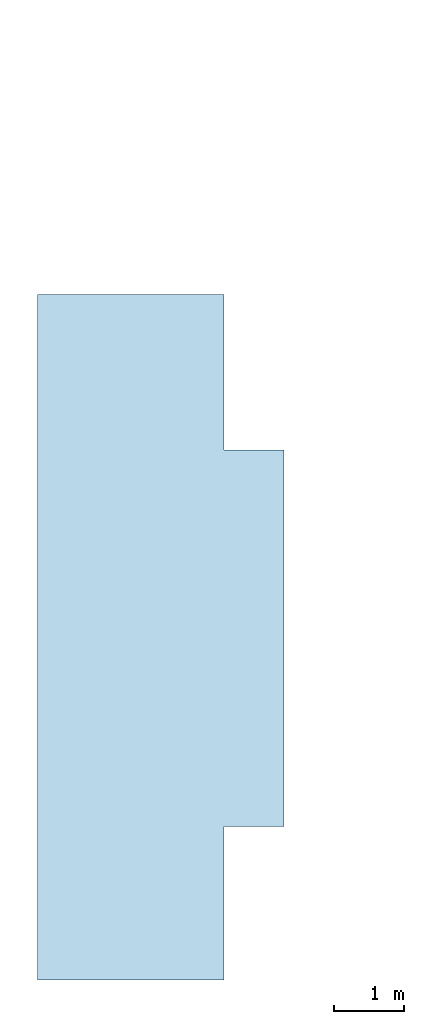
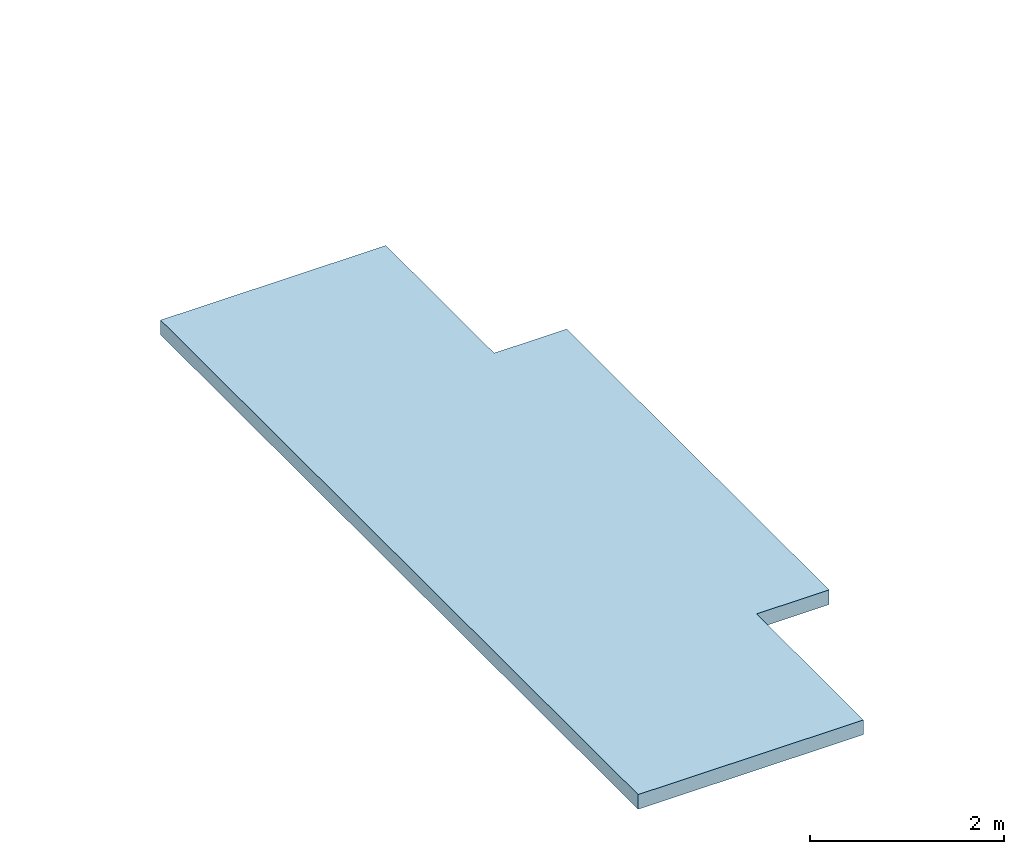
# One storey, part 1 of 2: 1 slab.
"""IFC2X3 building model written with IfcOpenShell, lengths in metres."""

import ifcopenshell
import ifcopenshell.guid

model = None  # the IFC model being written
_history = None  # IfcOwnerHistory: only IFC2X3 demands one
_inside = {}  # id of a spatial element -> (the spatial element, [elements in it])
_under = {}  # id of a project, library or spatial element -> (it, [spatial elements below it])
_declared = {}  # id of a project -> (the project, [libraries it declares])
_typed = {}  # id of a type object -> (the type object, [elements of that type])
_made_of = {}  # id of a material, layer set ... -> (it, [elements and type objects made of it])


def new_model(schema):
    """Start an empty IFC model of exactly this schema.

    Asked for "IFC4X3", IfcOpenShell would pick the latest addendum, in which some entities
    have other attributes; the version numbers below select the first issue.
    IFC2X3 requires an IfcOwnerHistory on every rooted entity: one is made here for all.
    """
    global model, _history
    if schema == "IFC4X3":
        model = ifcopenshell.file(schema_version=(4, 3, 0, 0))
    else:
        model = ifcopenshell.file(schema=schema)
    _inside.clear()
    _under.clear()
    _declared.clear()
    _typed.clear()
    _made_of.clear()
    _history = None
    if model.schema == "IFC2X3":
        org = make("IfcOrganization", Name="unknown")
        user = make(
            "IfcPersonAndOrganization",
            ThePerson=make("IfcPerson", FamilyName="unknown"),
            TheOrganization=org,
        )
        app = make(
            "IfcApplication",
            ApplicationDeveloper=org,
            Version="unknown",
            ApplicationFullName="unknown",
            ApplicationIdentifier="unknown",
        )
        _history = make(
            "IfcOwnerHistory",
            OwningUser=user,
            OwningApplication=app,
            ChangeAction="ADDED",
            CreationDate=0,
        )
    return model


def make(cls, **values):
    """One entity of the class cls with the attributes given. An attribute that is None is left unset."""
    return model.create_entity(
        cls, **{name: value for name, value in values.items() if value is not None}
    )


def entity(cls, *values):
    """Any entity or typed value of the class cls, its attributes in the order of the schema. None: left unset."""
    e = model.create_entity(cls)
    for i, value in enumerate(values):
        if value is not None:
            e[i] = value
    return e


def rooted(cls, **values):
    """An entity with a GlobalId (a new one), such as an element, a storey or a relation."""
    return make(cls, GlobalId=ifcopenshell.guid.new(), OwnerHistory=_history, **values)


def si_unit(unit_type, name, prefix=None):
    """IfcSIUnit, for example si_unit("LENGTHUNIT", "METRE", prefix="MILLI")."""
    return make("IfcSIUnit", UnitType=unit_type, Prefix=prefix, Name=name)


def converted_unit(unit_type, name, factor, base, dimensions=None, offset=None):
    """IfcConversionBasedUnit, such as the inch: factor (a typed value) times the base unit."""
    return make(
        "IfcConversionBasedUnit"
        if offset is None
        else "IfcConversionBasedUnitWithOffset",
        ConversionOffset=offset,
        Dimensions=None
        if dimensions is None
        else entity("IfcDimensionalExponents", *dimensions),
        UnitType=unit_type,
        Name=name,
        ConversionFactor=make(
            "IfcMeasureWithUnit", ValueComponent=factor, UnitComponent=base
        ),
    )


def derived_unit(unit_type, elements):
    """IfcDerivedUnit: a product of units, each with its exponent."""
    return make(
        "IfcDerivedUnit",
        Elements=[
            make("IfcDerivedUnitElement", Unit=unit, Exponent=power)
            for unit, power in elements
        ],
        UnitType=unit_type,
    )


def assignment(units):
    """IfcUnitAssignment: the units of a project."""
    return None if units is None else make("IfcUnitAssignment", Units=units)


def point(xyz):
    """IfcCartesianPoint."""
    return None if xyz is None else make("IfcCartesianPoint", Coordinates=xyz)


def direction(xyz):
    """IfcDirection."""
    return None if xyz is None else make("IfcDirection", DirectionRatios=xyz)


def frame(location, z_axis=None, x_axis=None):
    """IfcAxis2Placement3D, a coordinate frame: its origin and axes. An axis left out is left unset."""
    return make(
        "IfcAxis2Placement3D",
        Location=point(location),
        Axis=direction(z_axis),
        RefDirection=direction(x_axis),
    )


def origin():
    """The frame at (0, 0, 0) with its axes left unset."""
    return frame((0.0, 0.0, 0.0))


def place(relative_to, where):
    """IfcLocalPlacement: puts the frame where relative to a parent placement (None: the world)."""
    return make(
        "IfcLocalPlacement", PlacementRelTo=relative_to, RelativePlacement=where
    )


def context(
    kind, dimensions, precision=None, world=None, true_north=None, identifier=None
):
    """IfcGeometricRepresentationContext, for example the 3D "Model" context."""
    return make(
        "IfcGeometricRepresentationContext",
        ContextIdentifier=identifier,
        ContextType=kind,
        CoordinateSpaceDimension=dimensions,
        Precision=precision,
        WorldCoordinateSystem=world,
        TrueNorth=true_north,
    )


def subcontext(parent, identifier, kind, view, scale=None):
    """IfcGeometricRepresentationSubContext, for example "Body" below "Model"."""
    return make(
        "IfcGeometricRepresentationSubContext",
        ContextIdentifier=identifier,
        ContextType=kind,
        ParentContext=parent,
        TargetScale=scale,
        TargetView=view,
    )


def project(units=None, contexts=None):
    """IfcProject with its units and contexts."""
    return rooted(
        "IfcProject",
        Name="project",
        RepresentationContexts=contexts,
        UnitsInContext=assignment(units),
    )


def spatial(cls, under=None, at=None, **own):
    """A site, building, storey or space (cls), placed at a placement, below another one or the project."""
    s = rooted(cls, ObjectPlacement=at, **own)
    if under is not None:
        _under.setdefault(under.id(), (under, []))[1].append(s)
    return s


def polyline(points):
    """IfcPolyline through the points."""
    return make("IfcPolyline", Points=[point(p) for p in points])


def outline(outer, holes=None, kind="AREA"):
    """IfcArbitraryClosedProfileDef: a profile drawn as a closed curve; with holes, ...WithVoids."""
    if holes is None:
        return make("IfcArbitraryClosedProfileDef", ProfileType=kind, OuterCurve=outer)
    return make(
        "IfcArbitraryProfileDefWithVoids",
        ProfileType=kind,
        OuterCurve=outer,
        InnerCurves=holes,
    )


def extrude(swept, where, along, depth):
    """IfcExtrudedAreaSolid: the profile swept, set in the frame where, extruded along a direction by depth."""
    return make(
        "IfcExtrudedAreaSolid",
        SweptArea=swept,
        Position=where,
        ExtrudedDirection=direction(along),
        Depth=depth,
    )


def shape(context_of_items, identifier, shape_type, items):
    """IfcShapeRepresentation: the items that make up one representation, for example the "Body"."""
    return make(
        "IfcShapeRepresentation",
        ContextOfItems=context_of_items,
        RepresentationIdentifier=identifier,
        RepresentationType=shape_type,
        Items=items,
    )


def material(Name=None, Category=None):
    """IfcMaterial."""
    return make("IfcMaterial", Name=Name, Category=Category)


def layer(
    of_material, thickness, ventilated=None, Name=None, Category=None, Priority=None
):
    """IfcMaterialLayer: one layer of a wall or slab, of a material (None: an air gap)."""
    return make(
        "IfcMaterialLayer",
        Material=of_material,
        LayerThickness=thickness,
        IsVentilated=ventilated,
        Name=Name,
        Category=Category,
        Priority=Priority,
    )


def layer_set(layers, Name=None):
    """IfcMaterialLayerSet."""
    return make("IfcMaterialLayerSet", MaterialLayers=layers, LayerSetName=Name)


def layer_usage(for_layer_set, set_direction, sense, offset, extent=None):
    """IfcMaterialLayerSetUsage: how a layer set lies in its element."""
    return make(
        "IfcMaterialLayerSetUsage",
        ForLayerSet=for_layer_set,
        LayerSetDirection=set_direction,
        DirectionSense=sense,
        OffsetFromReferenceLine=offset,
        ReferenceExtent=extent,
    )


def made_of(thing, what):
    """Note that an element or type object is made of a material, layer set ...; save() writes the relation."""
    if what is not None:
        _made_of.setdefault(what.id(), (what, []))[1].append(thing)
    return thing


def type_object(cls, material=None, **own):
    """A type object (cls), such as IfcWallType, which elements share."""
    return made_of(rooted(cls, **own), material)


def element(
    cls,
    number,
    at=None,
    inside=None,
    cuts=None,
    type_object=None,
    material=None,
    context=None,
    identifier="Body",
    shape_type=None,
    held_by="IfcProductDefinitionShape",
    body=None,
    shapes=None,
    **own,
):
    """One element of the class cls, such as IfcWall. Its Tag is "e" and its number.

    at: its placement. inside: the storey or other place that contains it. cuts: it is an
    opening in that element (IfcRelVoidsElement). A single representation is given by context,
    identifier, shape_type and body (its items); several are given by shapes. held_by: the class
    of the entity that holds the representations. save() writes the other relations.
    """
    e = rooted(cls, Tag="e%d" % number, ObjectPlacement=at, **own)
    if body is not None:
        shapes = [shape(context, identifier, shape_type, body)]
    if shapes is not None:
        e.Representation = make(held_by, Representations=shapes)
    if inside is not None:
        _inside.setdefault(inside.id(), (inside, []))[1].append(e)
    if cuts is not None:
        rooted(
            "IfcRelVoidsElement", RelatingBuildingElement=cuts, RelatedOpeningElement=e
        )
    if type_object is not None:
        _typed.setdefault(type_object.id(), (type_object, []))[1].append(e)
    return made_of(e, material)


def aggregate(whole, parts):
    """IfcRelAggregates: a whole, such as a stair, and the parts it consists of."""
    return rooted("IfcRelAggregates", RelatingObject=whole, RelatedObjects=parts)


def save(model, path):
    """Write the relations noted so far, then the file.

    IfcRelAggregates (storeys below a building ...), IfcRelContainedInSpatialStructure (elements
    in a storey), IfcRelDefinesByType, IfcRelAssociatesMaterial and IfcRelDeclares: one each for
    every whole, place, type object, material and project.
    """
    for whole, parts in _under.values():
        aggregate(whole, parts)
    for where, things in _inside.values():
        rooted(
            "IfcRelContainedInSpatialStructure",
            RelatedElements=things,
            RelatingStructure=where,
        )
    for kind, things in _typed.values():
        rooted("IfcRelDefinesByType", RelatedObjects=things, RelatingType=kind)
    for what, things in _made_of.values():
        rooted("IfcRelAssociatesMaterial", RelatedObjects=things, RelatingMaterial=what)
    for by, libraries in _declared.values():
        rooted("IfcRelDeclares", RelatingContext=by, RelatedDefinitions=libraries)
    model.write(path)


model = new_model("IFC2X3")

# Units and contexts
model_context = context("Model", 3, precision=1e-05, world=origin(), true_north=direction((6.12303176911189e-17, 1.0)))
plan_context = context("Plan", 3, precision=1e-05, world=origin(), true_north=direction((6.12303176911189e-17, 1.0)))
body_context = subcontext(model_context, "Body", "Model", "MODEL_VIEW")
ifc_project = project(units=[si_unit("LENGTHUNIT", "METRE"), si_unit("AREAUNIT", "SQUARE_METRE"), si_unit("VOLUMEUNIT", "CUBIC_METRE"), converted_unit("PLANEANGLEUNIT", "DEGREE", entity("IfcRatioMeasure", 0.0174532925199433), si_unit("PLANEANGLEUNIT", "RADIAN"), dimensions=[0, 0, 0, 0, 0, 0, 0]), si_unit("MASSUNIT", "GRAM", prefix="KILO"), derived_unit("MASSDENSITYUNIT", [(si_unit("MASSUNIT", "GRAM", prefix="KILO"), 1), (si_unit("LENGTHUNIT", "METRE"), -3)]), derived_unit("MOMENTOFINERTIAUNIT", [(si_unit("LENGTHUNIT", "METRE"), 4)]), si_unit("TIMEUNIT", "SECOND"), si_unit("FREQUENCYUNIT", "HERTZ"), si_unit("THERMODYNAMICTEMPERATUREUNIT", "DEGREE_CELSIUS"), derived_unit("THERMALTRANSMITTANCEUNIT", [(si_unit("MASSUNIT", "GRAM", prefix="KILO"), 1), (si_unit("THERMODYNAMICTEMPERATUREUNIT", "KELVIN"), -1), (si_unit("TIMEUNIT", "SECOND"), -3)]), derived_unit("VOLUMETRICFLOWRATEUNIT", [(si_unit("LENGTHUNIT", "METRE"), 3), (si_unit("TIMEUNIT", "SECOND"), -1)]), derived_unit("MASSFLOWRATEUNIT", [(si_unit("MASSUNIT", "GRAM", prefix="KILO"), 1), (si_unit("TIMEUNIT", "SECOND"), -1)]), derived_unit("ROTATIONALFREQUENCYUNIT", [(si_unit("TIMEUNIT", "SECOND"), -1)]), si_unit("ELECTRICCURRENTUNIT", "AMPERE"), si_unit("ELECTRICVOLTAGEUNIT", "VOLT"), si_unit("POWERUNIT", "WATT"), si_unit("FORCEUNIT", "NEWTON", prefix="KILO"), si_unit("ILLUMINANCEUNIT", "LUX"), si_unit("LUMINOUSFLUXUNIT", "LUMEN"), si_unit("LUMINOUSINTENSITYUNIT", "CANDELA"), derived_unit("USERDEFINED", [(si_unit("MASSUNIT", "GRAM", prefix="KILO"), -1), (si_unit("LENGTHUNIT", "METRE"), -2), (si_unit("TIMEUNIT", "SECOND"), 3), (si_unit("LUMINOUSFLUXUNIT", "LUMEN"), 1)]), derived_unit("SOUNDPOWERUNIT", [(si_unit("MASSUNIT", "GRAM", prefix="KILO"), 1), (si_unit("LENGTHUNIT", "METRE"), 2), (si_unit("TIMEUNIT", "SECOND"), -3)]), derived_unit("SOUNDPRESSUREUNIT", [(si_unit("MASSUNIT", "GRAM", prefix="KILO"), 1), (si_unit("LENGTHUNIT", "METRE"), -1), (si_unit("TIMEUNIT", "SECOND"), -2)]), derived_unit("LINEARVELOCITYUNIT", [(si_unit("LENGTHUNIT", "METRE"), 1), (si_unit("TIMEUNIT", "SECOND"), -1)]), si_unit("PRESSUREUNIT", "PASCAL"), derived_unit("USERDEFINED", [(si_unit("LENGTHUNIT", "METRE"), -2), (si_unit("MASSUNIT", "GRAM", prefix="KILO"), 1), (si_unit("TIMEUNIT", "SECOND"), -2)]), derived_unit("LINEARFORCEUNIT", [(si_unit("MASSUNIT", "GRAM", prefix="KILO"), 1), (si_unit("LENGTHUNIT", "METRE"), 1), (si_unit("TIMEUNIT", "SECOND"), -2), (si_unit("LENGTHUNIT", "METRE"), -1)]), derived_unit("PLANARFORCEUNIT", [(si_unit("MASSUNIT", "GRAM", prefix="KILO"), 1), (si_unit("LENGTHUNIT", "METRE"), 1), (si_unit("TIMEUNIT", "SECOND"), -2), (si_unit("LENGTHUNIT", "METRE"), -2)])], contexts=[model_context, plan_context])

# Site, building, storey
site_placement = place(None, frame((-11.0823275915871, 23.8300534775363, 0.0)))
site = spatial("IfcSite", under=ifc_project, at=site_placement, Name="Default", CompositionType="ELEMENT")
building_placement = place(site_placement, origin())
building = spatial("IfcBuilding", under=site, at=building_placement, Name="Englische Kirche", CompositionType="ELEMENT")
storey_placement = place(building_placement, frame((0.0, 0.0, 3.61)))
storey = spatial("IfcBuildingStorey", under=building, at=storey_placement, Name="Ebene New Gallery Stage 6", CompositionType="ELEMENT", Elevation=3.61)

# Slab
ifc_material = material(Name="Ortbeton - bewehrt")
ifc_layer = layer(ifc_material, 0.185)
ifc_layer_set = layer_set([ifc_layer], Name="Geschossdecke:STB 185")
ifc_layer_usage = layer_usage(ifc_layer_set, "AXIS3", "POSITIVE", 0.0)
slab_type = type_object("IfcSlabType", Name="Geschossdecke:STB 185", PredefinedType="FLOOR", material=ifc_layer_set)
slab_placement = place(storey_placement, origin())
element("IfcSlab", 1, at=slab_placement, inside=storey, type_object=slab_type, material=ifc_layer_usage, Name="Geschossdecke:STB 185", ObjectType="Geschossdecke:STB 185", PredefinedType="FLOOR", context=body_context, shape_type="SweptSolid", body=[
    extrude(outline(polyline([(-4.91675, -2.22725000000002), (4.93225000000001, -2.22725000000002), (4.93225000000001, 0.454750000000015), (2.69925, 0.454750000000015), (2.69925, 1.31775), (-2.71475, 1.31775), (-2.71475, 0.454750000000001), (-4.91675, 0.454750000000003), (-4.91675, -2.22725000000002)])), frame((2.41819556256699, 4.84673098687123, 0.0), z_axis=(0.0, 0.0, -1.0), x_axis=(0.0, 1.0, 0.0)), (0.0, 0.0, 1.0), 0.185),
])

save(model, "model.ifc")
